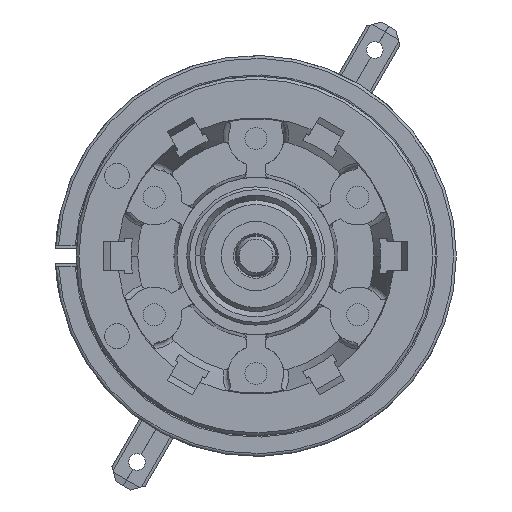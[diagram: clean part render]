
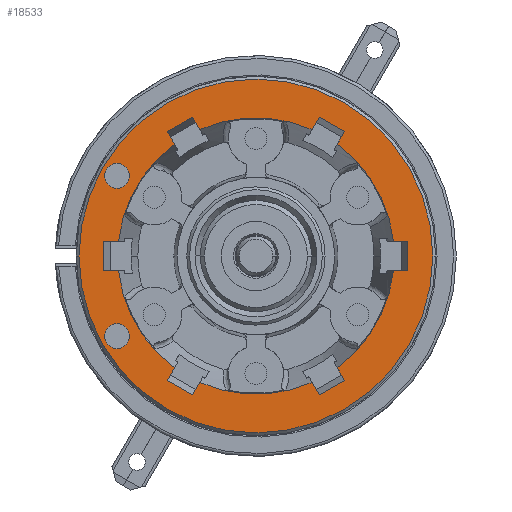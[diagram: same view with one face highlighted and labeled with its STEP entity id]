
A CAD part, left-side view. The second image highlights one B-rep face of the part: STEP entity #18533.
In plain terms, the highlighted planar face has unit normal (-1, 0, 0).
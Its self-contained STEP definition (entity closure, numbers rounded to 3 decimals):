
#6108=CARTESIAN_POINT('',(1.,0.,0.));
#6109=DIRECTION('',(-1.,0.,0.));
#6110=DIRECTION('',(0.,0.994,-0.105));
#6111=AXIS2_PLACEMENT_3D('',#6108,#6109,#6110);
#6121=CARTESIAN_POINT('',(1.,9.945,-1.05));
#6248=CARTESIAN_POINT('',(1.,-9.945,-1.05));
#6258=CARTESIAN_POINT('',(1.,0.,0.));
#6259=DIRECTION('',(-1.,0.,0.));
#6260=DIRECTION('',(0.,-0.588,-0.809));
#6261=AXIS2_PLACEMENT_3D('',#6258,#6259,#6260);
#6312=CARTESIAN_POINT('',(1.,-4.063,-9.137));
#6322=CARTESIAN_POINT('',(1.,0.,0.));
#6323=DIRECTION('',(-1.,0.,0.));
#6324=DIRECTION('',(0.,0.406,-0.914));
#6325=AXIS2_PLACEMENT_3D('',#6322,#6323,#6324);
#6445=CARTESIAN_POINT('',(1.,0.,0.));
#6446=DIRECTION('',(-1.,0.,0.));
#6447=DIRECTION('',(0.,1.,0.));
#6448=AXIS2_PLACEMENT_3D('',#6445,#6446,#6447);
#6453=CARTESIAN_POINT('',(1.,0.,0.));
#6454=DIRECTION('',(-1.,0.,0.));
#6455=DIRECTION('',(0.,-1.,0.));
#6456=AXIS2_PLACEMENT_3D('',#6453,#6454,#6455);
#6461=CARTESIAN_POINT('',(1.,10.05,5.8));
#6462=DIRECTION('',(-1.,0.,0.));
#6463=DIRECTION('',(0.,0.,1.));
#6464=AXIS2_PLACEMENT_3D('',#6461,#6462,#6463);
#6469=CARTESIAN_POINT('',(1.,10.05,5.8));
#6470=DIRECTION('',(-1.,0.,0.));
#6471=DIRECTION('',(0.,0.,-1.));
#6472=AXIS2_PLACEMENT_3D('',#6469,#6470,#6471);
#6477=CARTESIAN_POINT('',(1.,10.05,-5.8));
#6478=DIRECTION('',(-1.,0.,0.));
#6479=DIRECTION('',(0.,0.,1.));
#6480=AXIS2_PLACEMENT_3D('',#6477,#6478,#6479);
#6485=CARTESIAN_POINT('',(1.,10.05,-5.8));
#6486=DIRECTION('',(-1.,0.,0.));
#6487=DIRECTION('',(0.,0.,-1.));
#6488=AXIS2_PLACEMENT_3D('',#6485,#6486,#6487);
#6493=DIRECTION('',(0.,-0.5,0.866));
#6494=VECTOR('',#6493,1.055);
#6495=CARTESIAN_POINT('',(1.,4.591,-10.051));
#6496=LINE('',#6495,#6494);
#6500=DIRECTION('',(0.,-0.5,-0.866));
#6501=VECTOR('',#6500,1.055);
#6502=CARTESIAN_POINT('',(1.,-4.063,-9.137));
#6503=LINE('',#6502,#6501);
#6507=DIRECTION('',(0.,0.866,-0.5));
#6508=VECTOR('',#6507,2.1);
#6509=CARTESIAN_POINT('',(1.,-6.409,-9.001));
#6510=LINE('',#6509,#6508);
#6514=DIRECTION('',(0.,0.5,0.866));
#6515=VECTOR('',#6514,1.055);
#6516=CARTESIAN_POINT('',(1.,-6.409,-9.001));
#6517=LINE('',#6516,#6515);
#6521=DIRECTION('',(0.,-1.,0.));
#6522=VECTOR('',#6521,1.055);
#6523=CARTESIAN_POINT('',(1.,-9.945,-1.05));
#6524=LINE('',#6523,#6522);
#6528=DIRECTION('',(0.,0.,-1.));
#6529=VECTOR('',#6528,2.1);
#6530=CARTESIAN_POINT('',(1.,-11.,1.05));
#6531=LINE('',#6530,#6529);
#6535=DIRECTION('',(0.,1.,0.));
#6536=VECTOR('',#6535,1.055);
#6537=CARTESIAN_POINT('',(1.,-11.,1.05));
#6538=LINE('',#6537,#6536);
#6542=DIRECTION('',(0.,-0.5,0.866));
#6543=VECTOR('',#6542,1.055);
#6544=CARTESIAN_POINT('',(1.,-5.882,8.087));
#6545=LINE('',#6544,#6543);
#6549=DIRECTION('',(0.,-0.866,-0.5));
#6550=VECTOR('',#6549,2.1);
#6551=CARTESIAN_POINT('',(1.,-4.591,10.051));
#6552=LINE('',#6551,#6550);
#6556=DIRECTION('',(0.,0.5,-0.866));
#6557=VECTOR('',#6556,1.055);
#6558=CARTESIAN_POINT('',(1.,-4.591,10.051));
#6559=LINE('',#6558,#6557);
#6563=DIRECTION('',(0.,0.5,0.866));
#6564=VECTOR('',#6563,1.055);
#6565=CARTESIAN_POINT('',(1.,4.063,9.137));
#6566=LINE('',#6565,#6564);
#6570=DIRECTION('',(0.,-0.866,0.5));
#6571=VECTOR('',#6570,2.1);
#6572=CARTESIAN_POINT('',(1.,6.409,9.001));
#6573=LINE('',#6572,#6571);
#6577=DIRECTION('',(0.,-0.5,-0.866));
#6578=VECTOR('',#6577,1.055);
#6579=CARTESIAN_POINT('',(1.,6.409,9.001));
#6580=LINE('',#6579,#6578);
#6584=DIRECTION('',(0.,1.,0.));
#6585=VECTOR('',#6584,1.055);
#6586=CARTESIAN_POINT('',(1.,9.945,1.05));
#6587=LINE('',#6586,#6585);
#6591=DIRECTION('',(0.,0.,1.));
#6592=VECTOR('',#6591,2.1);
#6593=CARTESIAN_POINT('',(1.,11.,-1.05));
#6594=LINE('',#6593,#6592);
#6598=DIRECTION('',(0.,-1.,0.));
#6599=VECTOR('',#6598,1.055);
#6600=CARTESIAN_POINT('',(1.,11.,-1.05));
#6601=LINE('',#6600,#6599);
#6605=DIRECTION('',(0.,0.5,-0.866));
#6606=VECTOR('',#6605,1.055);
#6607=CARTESIAN_POINT('',(1.,5.882,-8.087));
#6608=LINE('',#6607,#6606);
#6612=DIRECTION('',(0.,0.866,0.5));
#6613=VECTOR('',#6612,2.1);
#6614=CARTESIAN_POINT('',(1.,4.591,-10.051));
#6615=LINE('',#6614,#6613);
#6965=CARTESIAN_POINT('',(1.,9.945,1.05));
#6975=CARTESIAN_POINT('',(1.,0.,0.));
#6976=DIRECTION('',(1.,0.,0.));
#6977=DIRECTION('',(0.,0.994,0.105));
#6978=AXIS2_PLACEMENT_3D('',#6975,#6976,#6977);
#7029=CARTESIAN_POINT('',(1.,4.063,9.137));
#7039=CARTESIAN_POINT('',(1.,0.,0.));
#7040=DIRECTION('',(1.,0.,0.));
#7041=DIRECTION('',(0.,0.406,0.914));
#7042=AXIS2_PLACEMENT_3D('',#7039,#7040,#7041);
#7093=CARTESIAN_POINT('',(1.,-5.882,8.087));
#7103=CARTESIAN_POINT('',(1.,0.,0.));
#7104=DIRECTION('',(1.,0.,0.));
#7105=DIRECTION('',(0.,-0.588,0.809));
#7106=AXIS2_PLACEMENT_3D('',#7103,#7104,#7105);
#10641=CARTESIAN_POINT('',(1.,12.8,0.));
#10642=CARTESIAN_POINT('',(1.,-12.8,0.));
#10643=VERTEX_POINT('',#10641);
#10644=VERTEX_POINT('',#10642);
#10657=CARTESIAN_POINT('',(1.,10.05,6.7));
#10658=CARTESIAN_POINT('',(1.,10.05,4.9));
#10659=VERTEX_POINT('',#10657);
#10660=VERTEX_POINT('',#10658);
#10661=CARTESIAN_POINT('',(1.,10.05,-4.9));
#10662=CARTESIAN_POINT('',(1.,10.05,-6.7));
#10663=VERTEX_POINT('',#10661);
#10664=VERTEX_POINT('',#10662);
#10881=VERTEX_POINT('',#6965);
#10882=VERTEX_POINT('',#6121);
#10883=CARTESIAN_POINT('',(1.,11.,-1.05));
#10884=VERTEX_POINT('',#10883);
#10885=CARTESIAN_POINT('',(1.,11.,1.05));
#10886=VERTEX_POINT('',#10885);
#10891=CARTESIAN_POINT('',(1.,5.882,8.087));
#10892=VERTEX_POINT('',#10891);
#10901=VERTEX_POINT('',#7029);
#10902=CARTESIAN_POINT('',(1.,6.409,9.001));
#10903=VERTEX_POINT('',#10902);
#10904=CARTESIAN_POINT('',(1.,4.591,10.051));
#10905=VERTEX_POINT('',#10904);
#10910=CARTESIAN_POINT('',(1.,-4.063,9.137));
#10911=VERTEX_POINT('',#10910);
#10920=VERTEX_POINT('',#7093);
#10921=CARTESIAN_POINT('',(1.,-4.591,10.051));
#10922=VERTEX_POINT('',#10921);
#10923=CARTESIAN_POINT('',(1.,-6.409,9.001));
#10924=VERTEX_POINT('',#10923);
#10931=CARTESIAN_POINT('',(1.,-9.945,1.05));
#10932=VERTEX_POINT('',#10931);
#10941=VERTEX_POINT('',#6248);
#10942=CARTESIAN_POINT('',(1.,-11.,1.05));
#10943=VERTEX_POINT('',#10942);
#10944=CARTESIAN_POINT('',(1.,-11.,-1.05));
#10945=VERTEX_POINT('',#10944);
#10950=CARTESIAN_POINT('',(1.,-5.882,-8.087));
#10951=VERTEX_POINT('',#10950);
#10960=VERTEX_POINT('',#6312);
#10961=CARTESIAN_POINT('',(1.,-6.409,-9.001));
#10962=VERTEX_POINT('',#10961);
#10963=CARTESIAN_POINT('',(1.,-4.591,-10.051));
#10964=VERTEX_POINT('',#10963);
#10969=CARTESIAN_POINT('',(1.,5.882,-8.087));
#10970=VERTEX_POINT('',#10969);
#10971=CARTESIAN_POINT('',(1.,4.063,-9.137));
#10972=VERTEX_POINT('',#10971);
#10981=CARTESIAN_POINT('',(1.,4.591,-10.051));
#10982=VERTEX_POINT('',#10981);
#10983=CARTESIAN_POINT('',(1.,6.409,-9.001));
#10984=VERTEX_POINT('',#10983);
#18465=CARTESIAN_POINT('',(1.,0.,0.));
#18466=DIRECTION('',(1.,0.,0.));
#18467=DIRECTION('',(0.,-1.,0.));
#18468=AXIS2_PLACEMENT_3D('',#18465,#18466,#18467);
#18469=PLANE('',#18468);
#18471=ORIENTED_EDGE('',*,*,#18470,.F.);
#18473=ORIENTED_EDGE('',*,*,#18472,.F.);
#18474=EDGE_LOOP('',(#18471,#18473));
#18475=FACE_OUTER_BOUND('',#18474,.F.);
#18477=ORIENTED_EDGE('',*,*,#18476,.T.);
#18479=ORIENTED_EDGE('',*,*,#18478,.T.);
#18480=EDGE_LOOP('',(#18477,#18479));
#18481=FACE_BOUND('',#18480,.F.);
#18483=ORIENTED_EDGE('',*,*,#18482,.T.);
#18485=ORIENTED_EDGE('',*,*,#18484,.T.);
#18486=EDGE_LOOP('',(#18483,#18485));
#18487=FACE_BOUND('',#18486,.F.);
#18488=ORIENTED_EDGE('',*,*,#18432,.T.);
#18489=ORIENTED_EDGE('',*,*,#18288,.T.);
#18491=ORIENTED_EDGE('',*,*,#18490,.T.);
#18493=ORIENTED_EDGE('',*,*,#18492,.F.);
#18495=ORIENTED_EDGE('',*,*,#18494,.T.);
#18496=ORIENTED_EDGE('',*,*,#18272,.T.);
#18498=ORIENTED_EDGE('',*,*,#18497,.T.);
#18500=ORIENTED_EDGE('',*,*,#18499,.F.);
#18502=ORIENTED_EDGE('',*,*,#18501,.T.);
#18504=ORIENTED_EDGE('',*,*,#18503,.F.);
#18506=ORIENTED_EDGE('',*,*,#18505,.T.);
#18508=ORIENTED_EDGE('',*,*,#18507,.F.);
#18510=ORIENTED_EDGE('',*,*,#18509,.T.);
#18512=ORIENTED_EDGE('',*,*,#18511,.F.);
#18514=ORIENTED_EDGE('',*,*,#18513,.T.);
#18516=ORIENTED_EDGE('',*,*,#18515,.F.);
#18518=ORIENTED_EDGE('',*,*,#18517,.T.);
#18520=ORIENTED_EDGE('',*,*,#18519,.F.);
#18522=ORIENTED_EDGE('',*,*,#18521,.T.);
#18524=ORIENTED_EDGE('',*,*,#18523,.F.);
#18526=ORIENTED_EDGE('',*,*,#18525,.T.);
#18527=ORIENTED_EDGE('',*,*,#18227,.T.);
#18529=ORIENTED_EDGE('',*,*,#18528,.T.);
#18530=ORIENTED_EDGE('',*,*,#18449,.F.);
#18531=EDGE_LOOP('',(#18488,#18489,#18491,#18493,#18495,#18496,#18498,#18500,
#18502,#18504,#18506,#18508,#18510,#18512,#18514,#18516,#18518,#18520,#18522,
#18524,#18526,#18527,#18529,#18530));
#18532=FACE_BOUND('',#18531,.F.);
#18533=ADVANCED_FACE('',(#18475,#18481,#18487,#18532),#18469,.F.);
#6112=CIRCLE('',#6111,10.);
#6262=CIRCLE('',#6261,10.);
#6326=CIRCLE('',#6325,10.);
#6449=CIRCLE('',#6448,12.8);
#6457=CIRCLE('',#6456,12.8);
#6465=CIRCLE('',#6464,0.9);
#6473=CIRCLE('',#6472,0.9);
#6481=CIRCLE('',#6480,0.9);
#6489=CIRCLE('',#6488,0.9);
#6979=CIRCLE('',#6978,10.);
#7043=CIRCLE('',#7042,10.);
#7107=CIRCLE('',#7106,10.);
#18227=EDGE_CURVE('',#10882,#10970,#6112,.T.);
#18272=EDGE_CURVE('',#10951,#10941,#6262,.T.);
#18288=EDGE_CURVE('',#10972,#10960,#6326,.T.);
#18432=EDGE_CURVE('',#10982,#10972,#6496,.T.);
#18449=EDGE_CURVE('',#10982,#10984,#6615,.T.);
#18470=EDGE_CURVE('',#10643,#10644,#6449,.T.);
#18472=EDGE_CURVE('',#10644,#10643,#6457,.T.);
#18476=EDGE_CURVE('',#10659,#10660,#6465,.T.);
#18478=EDGE_CURVE('',#10660,#10659,#6473,.T.);
#18482=EDGE_CURVE('',#10663,#10664,#6481,.T.);
#18484=EDGE_CURVE('',#10664,#10663,#6489,.T.);
#18490=EDGE_CURVE('',#10960,#10964,#6503,.T.);
#18492=EDGE_CURVE('',#10962,#10964,#6510,.T.);
#18494=EDGE_CURVE('',#10962,#10951,#6517,.T.);
#18497=EDGE_CURVE('',#10941,#10945,#6524,.T.);
#18499=EDGE_CURVE('',#10943,#10945,#6531,.T.);
#18501=EDGE_CURVE('',#10943,#10932,#6538,.T.);
#18503=EDGE_CURVE('',#10920,#10932,#7107,.T.);
#18505=EDGE_CURVE('',#10920,#10924,#6545,.T.);
#18507=EDGE_CURVE('',#10922,#10924,#6552,.T.);
#18509=EDGE_CURVE('',#10922,#10911,#6559,.T.);
#18511=EDGE_CURVE('',#10901,#10911,#7043,.T.);
#18513=EDGE_CURVE('',#10901,#10905,#6566,.T.);
#18515=EDGE_CURVE('',#10903,#10905,#6573,.T.);
#18517=EDGE_CURVE('',#10903,#10892,#6580,.T.);
#18519=EDGE_CURVE('',#10881,#10892,#6979,.T.);
#18521=EDGE_CURVE('',#10881,#10886,#6587,.T.);
#18523=EDGE_CURVE('',#10884,#10886,#6594,.T.);
#18525=EDGE_CURVE('',#10884,#10882,#6601,.T.);
#18528=EDGE_CURVE('',#10970,#10984,#6608,.T.);
